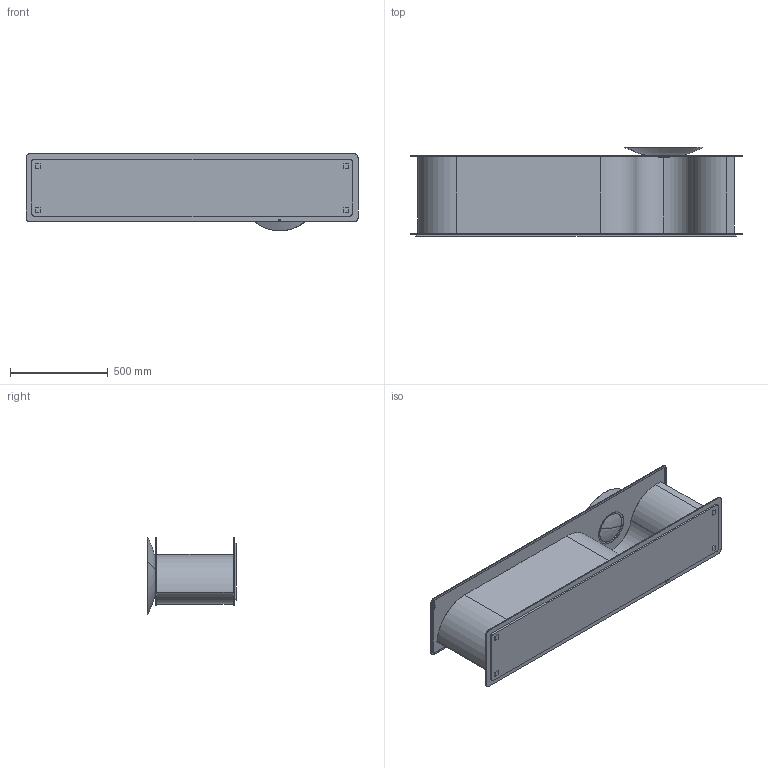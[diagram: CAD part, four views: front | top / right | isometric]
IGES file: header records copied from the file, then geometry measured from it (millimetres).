
Start section: SolidWorks IGES file using analytic representation for surfaces
Global section: file name: \\utenti\Dati Utenti\Tecnico\DC\2D - 3D per sito\3D\DeCastelli-3D-Wave.igs; native system: SolidWorks 2022; preprocessor: SolidWorks 2022; author: Simonep; date: 240729.120949; units: millimetre
Bounding box: 1700 x 457.15 x 398.74 mm (x, y, z)
Surface area: 5228499.6 mm2 (no closed solid volume)
Topology: 0 solids, 0 shells, 114 faces, 1505 edges, 1504 vertices
Faces by surface type: bspline 64, revolution 50
